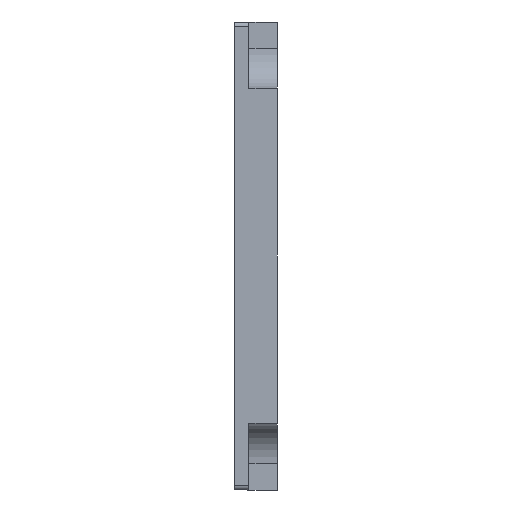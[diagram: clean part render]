
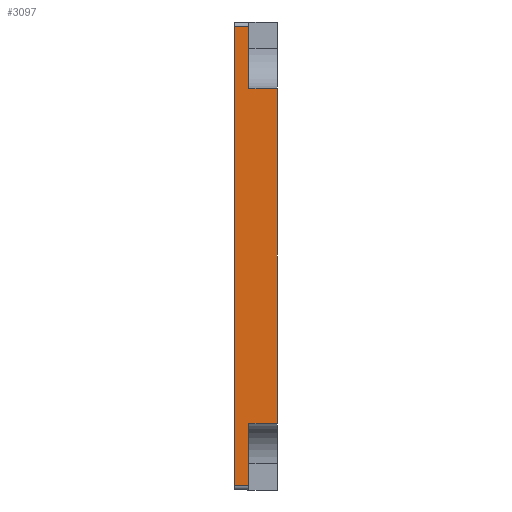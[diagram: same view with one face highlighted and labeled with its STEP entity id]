
A CAD part, left-side view. The second image highlights one B-rep face of the part: STEP entity #3097.
In plain terms, the highlighted planar face has unit normal (-1, 0, 0).
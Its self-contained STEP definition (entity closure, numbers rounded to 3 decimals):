
#2379 = DIRECTION ( 'NONE',  ( 0., -1., 0. ) ) ;
#2380 = VECTOR ( 'NONE', #2379, 1000. ) ;
#2381 = CARTESIAN_POINT ( 'NONE',  ( -59.5, 3., -17.5 ) ) ;
#2382 = LINE ( 'NONE', #2381, #2380 ) ;
#2421 = DIRECTION ( 'NONE',  ( 0., 0., 1. ) ) ;
#2422 = DIRECTION ( 'NONE',  ( -1., 0., 0. ) ) ;
#2423 = CARTESIAN_POINT ( 'NONE',  ( -59.5, 11.4, 24. ) ) ;
#2424 = AXIS2_PLACEMENT_3D ( 'NONE', #2423, #2422, #2421 ) ;
#2425 = PLANE ( 'NONE',  #2424 ) ;
#2426 = FACE_OUTER_BOUND ( 'NONE', #3181, .T. ) ;
#2427 = CARTESIAN_POINT ( 'NONE',  ( -59.5, 4.5, 24. ) ) ;
#2428 = CARTESIAN_POINT ( 'NONE',  ( -59.5, 4.5, -24. ) ) ;
#2429 = DIRECTION ( 'NONE',  ( 0., 0., 1. ) ) ;
#2430 = VECTOR ( 'NONE', #2429, 1000. ) ;
#2431 = CARTESIAN_POINT ( 'NONE',  ( -59.5, 4.5, 25. ) ) ;
#2432 = LINE ( 'NONE', #2431, #2430 ) ;
#2434 = DIRECTION ( 'NONE',  ( 0., -1., 0. ) ) ;
#2435 = VECTOR ( 'NONE', #2434, 1000. ) ;
#2436 = CARTESIAN_POINT ( 'NONE',  ( -59.5, 11.4, -24. ) ) ;
#2437 = LINE ( 'NONE', #2436, #2435 ) ;
#2438 = CARTESIAN_POINT ( 'NONE',  ( -59.5, 3., -24. ) ) ;
#2439 = CARTESIAN_POINT ( 'NONE',  ( -59.5, 3., -17.5 ) ) ;
#2440 = DIRECTION ( 'NONE',  ( 0., 0., -1. ) ) ;
#2441 = VECTOR ( 'NONE', #2440, 1000. ) ;
#2442 = CARTESIAN_POINT ( 'NONE',  ( -59.5, 3., -24.5 ) ) ;
#2443 = LINE ( 'NONE', #2442, #2441 ) ;
#2475 = DIRECTION ( 'NONE',  ( 0., 0., -1. ) ) ;
#2476 = VECTOR ( 'NONE', #2475, 1000. ) ;
#2477 = CARTESIAN_POINT ( 'NONE',  ( -59.5, 3., 24.5 ) ) ;
#2478 = LINE ( 'NONE', #2477, #2476 ) ;
#2479 = CARTESIAN_POINT ( 'NONE',  ( -59.5, 3., 17.5 ) ) ;
#2480 = DIRECTION ( 'NONE',  ( 0., -1., 0. ) ) ;
#2481 = VECTOR ( 'NONE', #2480, 1000. ) ;
#2482 = CARTESIAN_POINT ( 'NONE',  ( -59.5, 3., 17.5 ) ) ;
#2483 = LINE ( 'NONE', #2482, #2481 ) ;
#2484 = CARTESIAN_POINT ( 'NONE',  ( -59.5, 0., 17.5 ) ) ;
#2485 = DIRECTION ( 'NONE',  ( 0., 0., -1. ) ) ;
#2486 = VECTOR ( 'NONE', #2485, 1000. ) ;
#2487 = CARTESIAN_POINT ( 'NONE',  ( -59.5, 0., 24. ) ) ;
#2488 = LINE ( 'NONE', #2487, #2486 ) ;
#2518 = CARTESIAN_POINT ( 'NONE',  ( -59.5, 0., -17.5 ) ) ;
#2534 = DIRECTION ( 'NONE',  ( 0., -1., 0. ) ) ;
#2535 = VECTOR ( 'NONE', #2534, 1000. ) ;
#2536 = CARTESIAN_POINT ( 'NONE',  ( -59.5, 11.4, 24. ) ) ;
#2537 = LINE ( 'NONE', #2536, #2535 ) ;
#2538 = CARTESIAN_POINT ( 'NONE',  ( -59.5, 3., 24. ) ) ;
#3084 = EDGE_CURVE ( 'NONE', #3086, #3148, #2382, .T. ) ;
#3085 = EDGE_CURVE ( 'NONE', #3086, #3087, #2443, .T. ) ;
#3086 = VERTEX_POINT ( 'NONE', #2439 ) ;
#3087 = VERTEX_POINT ( 'NONE', #2438 ) ;
#3088 = ORIENTED_EDGE ( 'NONE', *, *, #3085, .F. ) ;
#3089 = ORIENTED_EDGE ( 'NONE', *, *, #3090, .T. ) ;
#3090 = EDGE_CURVE ( 'NONE', #3095, #3087, #2437, .T. ) ;
#3092 = ORIENTED_EDGE ( 'NONE', *, *, #3084, .T. ) ;
#3093 = ORIENTED_EDGE ( 'NONE', *, *, #3094, .F. ) ;
#3094 = EDGE_CURVE ( 'NONE', #3095, #3096, #2432, .T. ) ;
#3095 = VERTEX_POINT ( 'NONE', #2428 ) ;
#3096 = VERTEX_POINT ( 'NONE', #2427 ) ;
#3097 = ADVANCED_FACE ( 'NONE', ( #2426 ), #2425, .T. ) ;
#3131 = ORIENTED_EDGE ( 'NONE', *, *, #3132, .F. ) ;
#3132 = EDGE_CURVE ( 'NONE', #3133, #3148, #2488, .T. ) ;
#3133 = VERTEX_POINT ( 'NONE', #2484 ) ;
#3134 = ORIENTED_EDGE ( 'NONE', *, *, #3135, .F. ) ;
#3135 = EDGE_CURVE ( 'NONE', #3136, #3133, #2483, .T. ) ;
#3136 = VERTEX_POINT ( 'NONE', #2479 ) ;
#3137 = ORIENTED_EDGE ( 'NONE', *, *, #3138, .F. ) ;
#3138 = EDGE_CURVE ( 'NONE', #3139, #3136, #2478, .T. ) ;
#3139 = VERTEX_POINT ( 'NONE', #2538 ) ;
#3140 = ORIENTED_EDGE ( 'NONE', *, *, #3141, .F. ) ;
#3141 = EDGE_CURVE ( 'NONE', #3096, #3139, #2537, .T. ) ;
#3148 = VERTEX_POINT ( 'NONE', #2518 ) ;
#3181 = EDGE_LOOP ( 'NONE', ( #3093, #3089, #3088, #3092, #3131, #3134, #3137, #3140 ) ) ;
